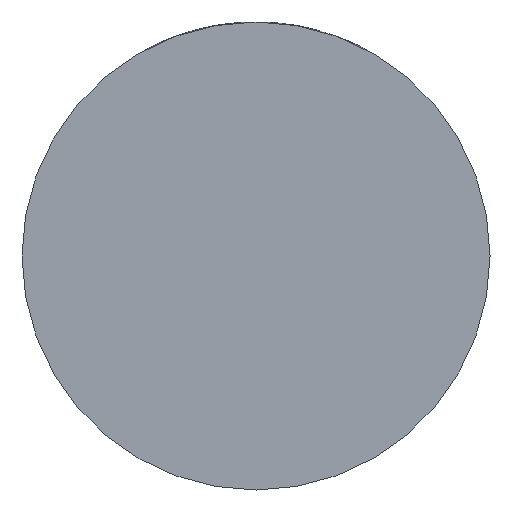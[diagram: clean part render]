
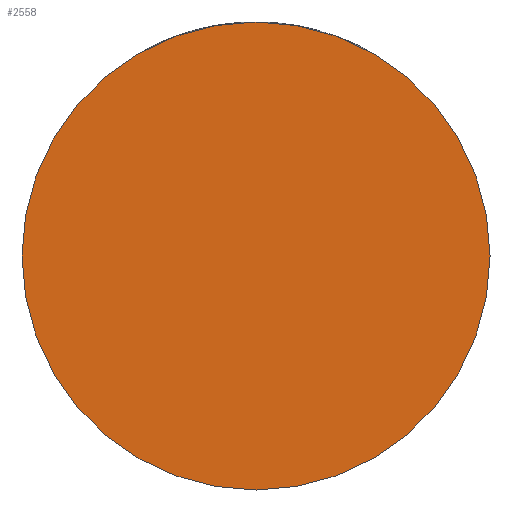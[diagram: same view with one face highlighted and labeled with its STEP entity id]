
A CAD part, front view. The second image highlights one B-rep face of the part: STEP entity #2558.
In plain terms, the highlighted planar face has unit normal (0, -1, 0).
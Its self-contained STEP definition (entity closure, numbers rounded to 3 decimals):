
#219 = ORIENTED_EDGE ( 'NONE', *, *, #2204, .T. ) ;
#243 = VERTEX_POINT ( 'NONE', #1054 ) ;
#249 = EDGE_CURVE ( 'NONE', #243, #602, #3720, .T. ) ;
#271 = DIRECTION ( 'NONE',  ( 0., -1., 0. ) ) ;
#304 = DIRECTION ( 'NONE',  ( 0., -1., 0. ) ) ;
#531 = DIRECTION ( 'NONE',  ( 1., 0., 0. ) ) ;
#578 = CARTESIAN_POINT ( 'NONE',  ( 0., -39., 0. ) ) ;
#602 = VERTEX_POINT ( 'NONE', #4342 ) ;
#1054 = CARTESIAN_POINT ( 'NONE',  ( -39., -39., 0. ) ) ;
#1237 = FACE_OUTER_BOUND ( 'NONE', #3881, .T. ) ;
#1353 = AXIS2_PLACEMENT_3D ( 'NONE', #578, #271, #1712 ) ;
#1504 = PLANE ( 'NONE',  #2630 ) ;
#1703 = DIRECTION ( 'NONE',  ( 1., 0., 0. ) ) ;
#1712 = DIRECTION ( 'NONE',  ( 1., 0., 0. ) ) ;
#1803 = AXIS2_PLACEMENT_3D ( 'NONE', #3515, #304, #1703 ) ;
#2148 = CIRCLE ( 'NONE', #1353, 39. ) ;
#2204 = EDGE_CURVE ( 'NONE', #602, #243, #2148, .T. ) ;
#2558 = ADVANCED_FACE ( 'NONE', ( #1237 ), #1504, .T. ) ;
#2629 = CARTESIAN_POINT ( 'NONE',  ( 0., -39., 0. ) ) ;
#2630 = AXIS2_PLACEMENT_3D ( 'NONE', #2629, #4314, #531 ) ;
#3149 = ORIENTED_EDGE ( 'NONE', *, *, #249, .T. ) ;
#3515 = CARTESIAN_POINT ( 'NONE',  ( 0., -39., 0. ) ) ;
#3720 = CIRCLE ( 'NONE', #1803, 39. ) ;
#3881 = EDGE_LOOP ( 'NONE', ( #3149, #219 ) ) ;
#4314 = DIRECTION ( 'NONE',  ( 0., -1., 0. ) ) ;
#4342 = CARTESIAN_POINT ( 'NONE',  ( 39., -39., 0. ) ) ;
